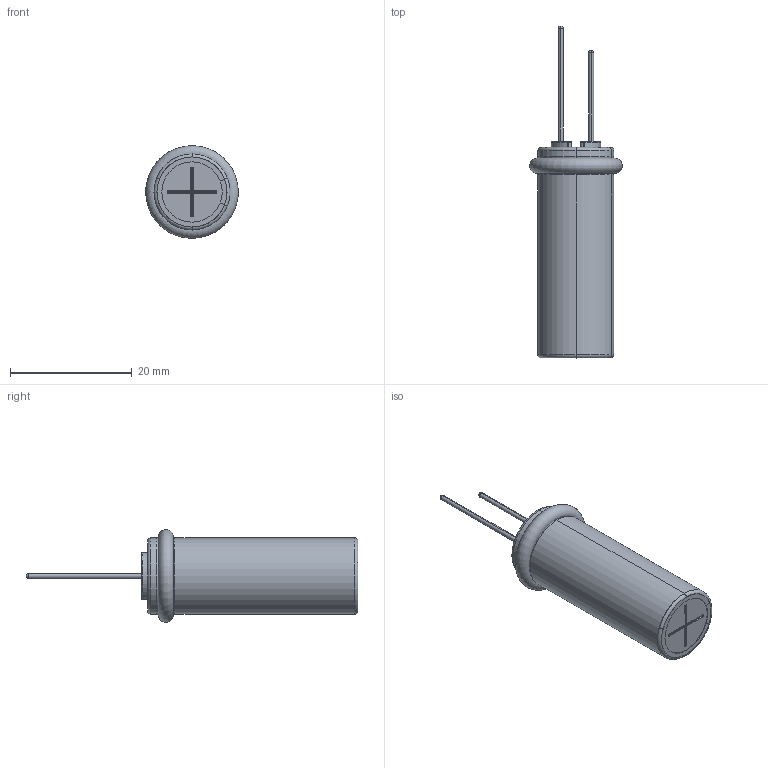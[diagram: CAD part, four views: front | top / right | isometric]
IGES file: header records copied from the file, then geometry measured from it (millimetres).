
Start section: 3D InterOp IGES (v. 2017 1.0.0), Spatial Corp. Copyright (c) 1999-2016.
Global section: file name: 12.5x35_Lead_A.igs; native system: Spatial Corp.; preprocessor: 3D InterOp ACIS/IGES; author: Noname; organization: Noname; date: 20180725.114920; units: millimetre
Bounding box: 15.2 x 54.5 x 15.2 mm (x, y, z)
Volume: 6502.9 mm3; surface area: 8908.3 mm2
Topology: 3 solids, 3 shells, 192 faces, 523 edges, 307 vertices
Faces by surface type: torus 73, cylinder 70, plane 33, sphere 8, bspline 6, extrusion 2
